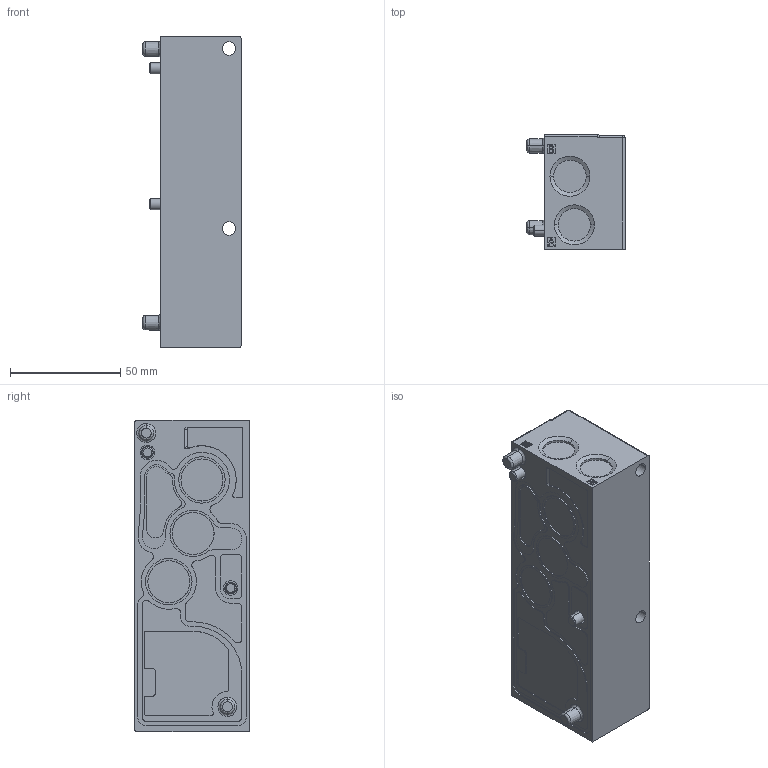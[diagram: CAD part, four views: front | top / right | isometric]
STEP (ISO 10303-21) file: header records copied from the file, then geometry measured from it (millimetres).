
FILE_DESCRIPTION (( 'STEP AP214' ), '1' );
FILE_NAME ('92A-000-C3K.STEP', '2019-08-09T13:21:15', ( '' ), ( '' ), 'SwSTEP 2.0', 'SolidWorks 2014', '' );
FILE_SCHEMA (( 'AUTOMOTIVE_DESIGN' ));
Length unit declared in the file: inch
Products named in the file (2): 92-BASE-C3J; 92A-000-C3K
Assembly tree (1 placements, depth 2):
  92A-000-C3K
    92-BASE-C3J
Bounding box: 44.5 x 52 x 141 mm (x, y, z)
Volume: 259489.9 mm3; surface area: 35665.1 mm2
Topology: 4 solids, 4 shells, 632 faces, 1621 edges, 1066 vertices
Faces by surface type: plane 356, cylinder 163, cone 59, bspline 54
Entity records: 29695 total; most frequent: CARTESIAN_POINT 6018, ORIENTED_EDGE 3238, DIRECTION 3084, EDGE_CURVE 1619, VECTOR 1080, LINE 1080, VERTEX_POINT 1066, AXIS2_PLACEMENT_3D 1002
